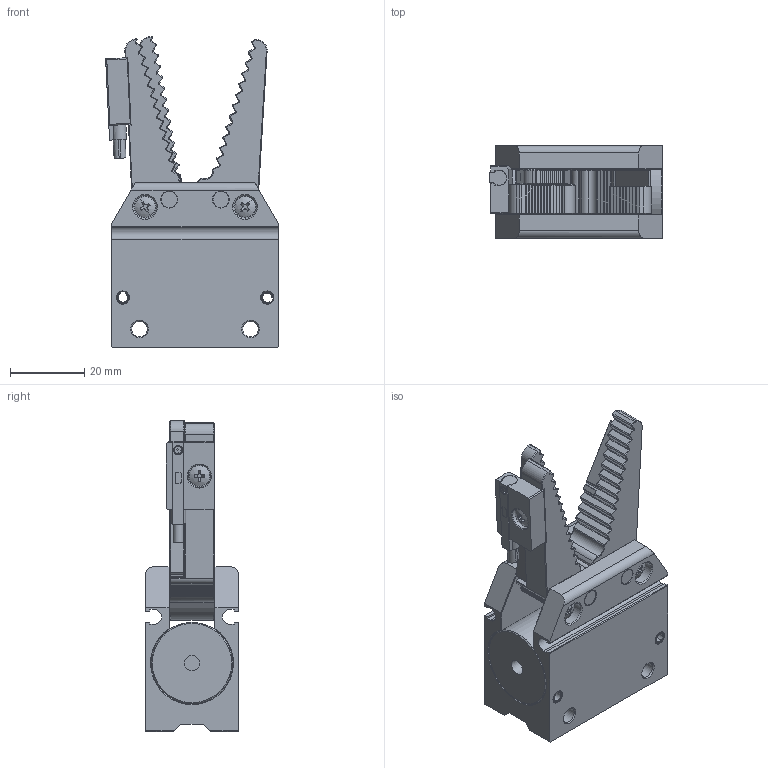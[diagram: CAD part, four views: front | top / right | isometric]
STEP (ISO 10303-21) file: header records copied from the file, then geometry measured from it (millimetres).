
FILE_DESCRIPTION(/* description */ (''),/* implementation_level */ '2;1');
FILE_NAME(/* name */ 'GRA20A-CN',/* time_stamp */ '2022-10-08T15:05:25+08:00',/* author */ (''),/* organization */ (''),/* preprocessor_version */ 'ST-DEVELOPER v9',/* originating_system */ 'UGS - NX 4.0',/* authorisation */ '');
FILE_SCHEMA (('AUTOMOTIVE_DESIGN { 1 0 10303 214 1 1 1 1 }'));
Length unit declared in the file: millimetre
Products named in the file (1): Admi75D3etcn
Bounding box: 46.65 x 25 x 84.05 mm (x, y, z)
Volume: 49222.8 mm3; surface area: 19504.9 mm2
Topology: 3 solids, 6 shells, 1524 faces, 3437 edges, 1940 vertices
Faces by surface type: cone 640, plane 486, cylinder 393, sphere 5
Full cylindrical faces by diameter (mm): 2 x2, 2.5 x3, 3 x10, 3.2 x3, 3.4 x1, 3.5 x4, 3.678 x2, 4 x1, 4.2 x6, 4.322 x6, 4.922 x1, 5.6 x1, 6.1 x3
Entity records: 46767 total; most frequent: DIRECTION 7630, CARTESIAN_POINT 7532, ORIENTED_EDGE 6624, EDGE_CURVE 3312, AXIS2_PLACEMENT_3D 2847, LINE 1936, VECTOR 1936, VERTEX_POINT 1916
